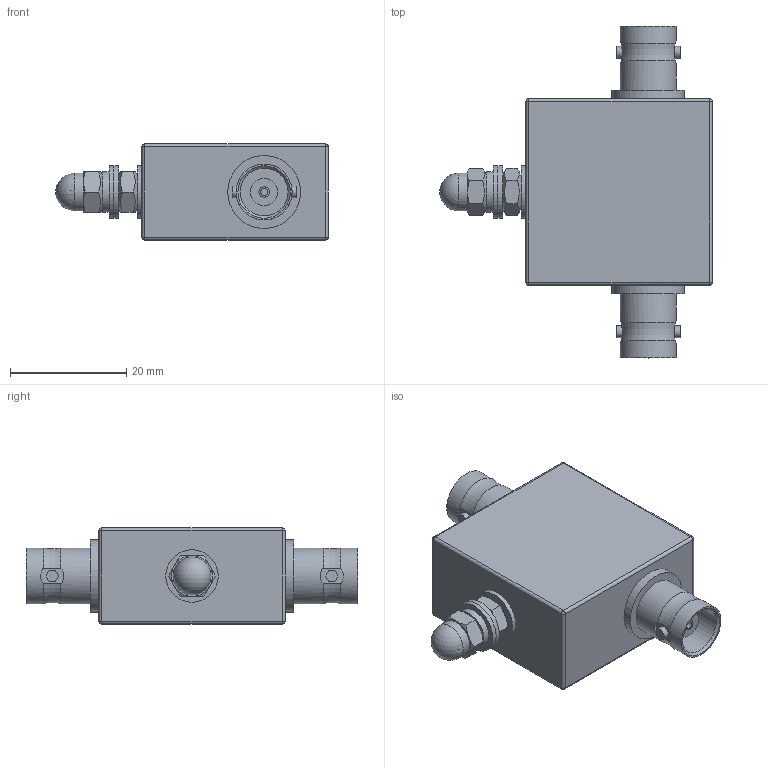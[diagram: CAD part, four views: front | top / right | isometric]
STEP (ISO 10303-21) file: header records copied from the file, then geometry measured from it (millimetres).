
FILE_DESCRIPTION(/* description */ (''),/* implementation_level */ '2;1');
FILE_NAME(/* name */ 'K:\PROJEKTY ROZPRACOVANÉ\MODELY DO KATALOGU\KO\3D - STEP\KO-_P.stp',/* time_stamp */ '2020-10-19T07:28:45+02:00',/* author */ ('M Koliska'),/* organization */ (''),/* preprocessor_version */ 'ST-DEVELOPER v18.1',/* originating_system */ 'Autodesk Inventor 2021',/* authorisation */ '');
FILE_SCHEMA (('AUTOMOTIVE_DESIGN { 1 0 10303 214 3 1 1 }'));
Length unit declared in the file: millimetre
Products named in the file (7): KO-1P; KO-1P_1; KONEKTOR BNC 1P; DIN 934 - M4; DIN 1587 - M4; DIN 7980 - 4; DIN 125 - A 4,3
Assembly tree (9 placements, depth 2):
  KO-1P
    KO-1P_1
    KONEKTOR BNC 1P  x2
    DIN 125 - A 4,3  x3
    DIN 934 - M4
    DIN 1587 - M4
    DIN 7980 - 4
Bounding box: 46.78 x 57 x 16.5 mm (x, y, z)
Volume: 18700 mm3; surface area: 7082.2 mm2
Topology: 9 solids, 9 shells, 144 faces, 288 edges, 176 vertices
Faces by surface type: plane 63, cylinder 52, cone 16, sphere 9, torus 4
Full cylindrical faces by diameter (mm): 1.2 x2, 1.8 x2, 2 x4, 3.242 x2, 4 x1, 4.3 x3, 4.7 x2, 6.5 x1, 8.2 x2, 9 x3, 9.6 x4, 12.5 x2
Entity records: 3033 total; most frequent: CARTESIAN_POINT 594, DIRECTION 500, ORIENTED_EDGE 420, AXIS2_PLACEMENT_3D 211, EDGE_CURVE 210, VERTEX_POINT 127, EDGE_LOOP 119, FACE_OUTER_BOUND 105
